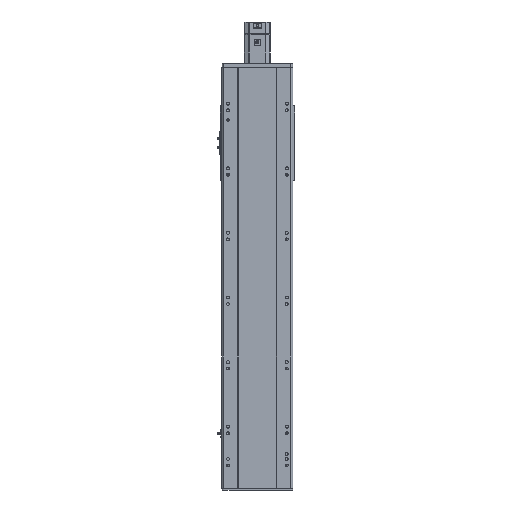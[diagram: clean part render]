
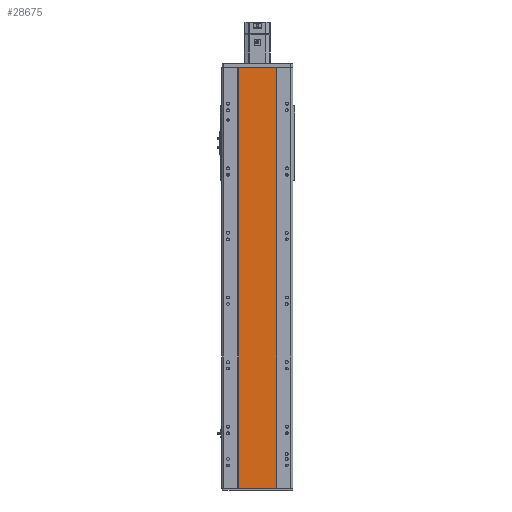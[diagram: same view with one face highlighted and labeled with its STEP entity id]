
A CAD part, front view. The second image highlights one B-rep face of the part: STEP entity #28675.
In plain terms, the highlighted planar face has unit normal (0, -1, 0).
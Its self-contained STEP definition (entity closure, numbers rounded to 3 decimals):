
#1578 = EDGE_CURVE ( 'NONE', #15201, #4190, #37548, .T. ) ;
#2625 = CARTESIAN_POINT ( 'NONE',  ( -59., 1., -650.5 ) ) ;
#3747 = VECTOR ( 'NONE', #16074, 1000. ) ;
#4190 = VERTEX_POINT ( 'NONE', #20917 ) ;
#5244 = DIRECTION ( 'NONE',  ( 0., 0., -1. ) ) ;
#5527 = VECTOR ( 'NONE', #5244, 1000. ) ;
#5674 = DIRECTION ( 'NONE',  ( 0., 1., 0. ) ) ;
#6546 = LINE ( 'NONE', #2625, #11709 ) ;
#6739 = FACE_OUTER_BOUND ( 'NONE', #31696, .T. ) ;
#6868 = AXIS2_PLACEMENT_3D ( 'NONE', #35532, #5674, #23613 ) ;
#10771 = LINE ( 'NONE', #28419, #3747 ) ;
#11582 = ORIENTED_EDGE ( 'NONE', *, *, #31018, .T. ) ;
#11709 = VECTOR ( 'NONE', #17392, 1000. ) ;
#12220 = ORIENTED_EDGE ( 'NONE', *, *, #17372, .F. ) ;
#15201 = VERTEX_POINT ( 'NONE', #21321 ) ;
#15935 = LINE ( 'NONE', #37466, #27731 ) ;
#16074 = DIRECTION ( 'NONE',  ( 0., 0., -1. ) ) ;
#17372 = EDGE_CURVE ( 'NONE', #22483, #15201, #15935, .T. ) ;
#17392 = DIRECTION ( 'NONE',  ( 1., 0., 0. ) ) ;
#19727 = ORIENTED_EDGE ( 'NONE', *, *, #1578, .F. ) ;
#20917 = CARTESIAN_POINT ( 'NONE',  ( 59., 1., -650.5 ) ) ;
#21321 = CARTESIAN_POINT ( 'NONE',  ( 59., 1., 650.5 ) ) ;
#22483 = VERTEX_POINT ( 'NONE', #29844 ) ;
#23315 = CARTESIAN_POINT ( 'NONE',  ( 59., 1., 650.5 ) ) ;
#23613 = DIRECTION ( 'NONE',  ( -1., 0., 0. ) ) ;
#25538 = DIRECTION ( 'NONE',  ( 1., 0., 0. ) ) ;
#27731 = VECTOR ( 'NONE', #25538, 1000. ) ;
#28419 = CARTESIAN_POINT ( 'NONE',  ( -59., 1., 650.5 ) ) ;
#28675 = ADVANCED_FACE ( 'NONE', ( #6739 ), #32525, .F. ) ;
#29844 = CARTESIAN_POINT ( 'NONE',  ( -59., 1., 650.5 ) ) ;
#31018 = EDGE_CURVE ( 'NONE', #22483, #32538, #10771, .T. ) ;
#31696 = EDGE_LOOP ( 'NONE', ( #35237, #19727, #12220, #11582 ) ) ;
#32525 = PLANE ( 'NONE',  #6868 ) ;
#32538 = VERTEX_POINT ( 'NONE', #35140 ) ;
#35140 = CARTESIAN_POINT ( 'NONE',  ( -59., 1., -650.5 ) ) ;
#35237 = ORIENTED_EDGE ( 'NONE', *, *, #37972, .T. ) ;
#35532 = CARTESIAN_POINT ( 'NONE',  ( -59., 1., 650.5 ) ) ;
#37466 = CARTESIAN_POINT ( 'NONE',  ( -59., 1., 650.5 ) ) ;
#37548 = LINE ( 'NONE', #23315, #5527 ) ;
#37972 = EDGE_CURVE ( 'NONE', #32538, #4190, #6546, .T. ) ;
